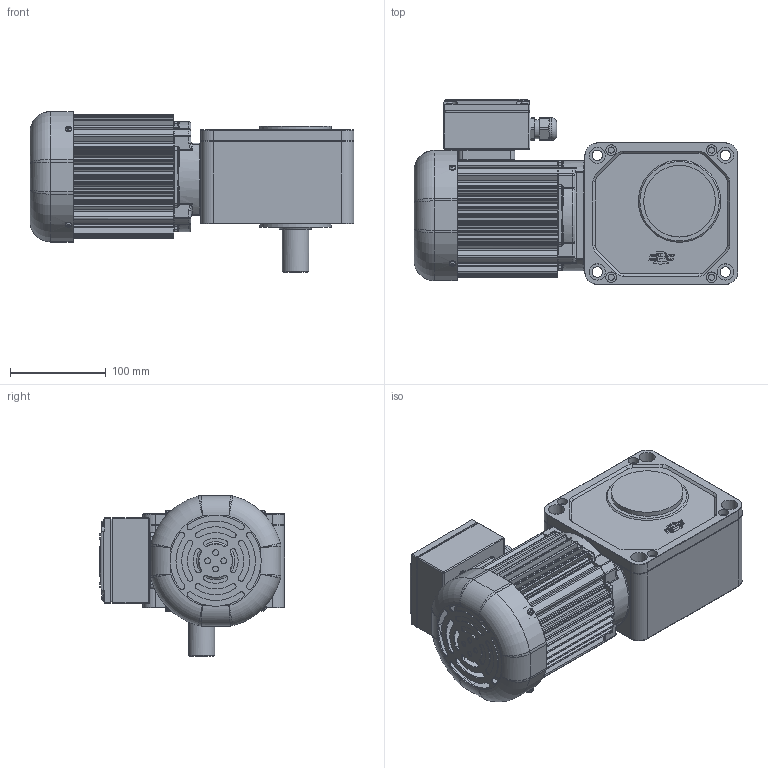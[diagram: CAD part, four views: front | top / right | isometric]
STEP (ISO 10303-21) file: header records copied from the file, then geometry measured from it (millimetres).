
FILE_DESCRIPTION(/* description */ (''),/* implementation_level */ '2;1');
FILE_NAME(/* name */ 'Z:\동력 3D 파일\PCS28R_0.2kW_3D.stp',/* time_stamp */ '2021-11-09T10:52:08+09:00',/* author */ ('jaebok'),/* organization */ (''),/* preprocessor_version */ 'ST-DEVELOPER v18.1',/* originating_system */ 'Autodesk Inventor 2022',/* authorisation */ '');
FILE_SCHEMA (('AUTOMOTIVE_DESIGN { 1 0 10303 214 3 1 1 }'));
Products named in the file (1): 부품43
Bounding box: 338.5 x 193.5 x 168.2 mm (x, y, z)
Volume: 1810387.1 mm3; surface area: 530327.5 mm2
Topology: 1 solids, 32 shells, 1856 faces, 4791 edges, 3036 vertices
Faces by surface type: plane 849, cylinder 668, torus 129, cone 99, bspline 95, sphere 16
Full cylindrical faces by diameter (mm): 3.242 x9, 3.25 x1, 3.6 x4, 4 x21, 5 x13, 5.386 x4, 6 x8, 6.5 x4, 6.647 x1, 7 x12, 8 x1, 10 x1, 11 x8, 12.5 x1, 15 x1, 17 x12, 20 x2, 21 x1, 23.6 x1, 25 x1, 27 x1, 28 x1, 34 x1, 35 x1, 50 x1, 50.562 x1, 64 x1, 68 x2, 73 x2, 75 x2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
Entity records: 62995 total; most frequent: CARTESIAN_POINT 15393, DIRECTION 9777, ORIENTED_EDGE 9484, EDGE_CURVE 4742, AXIS2_PLACEMENT_3D 3700, VERTEX_POINT 3036, LINE 2377, VECTOR 2377
